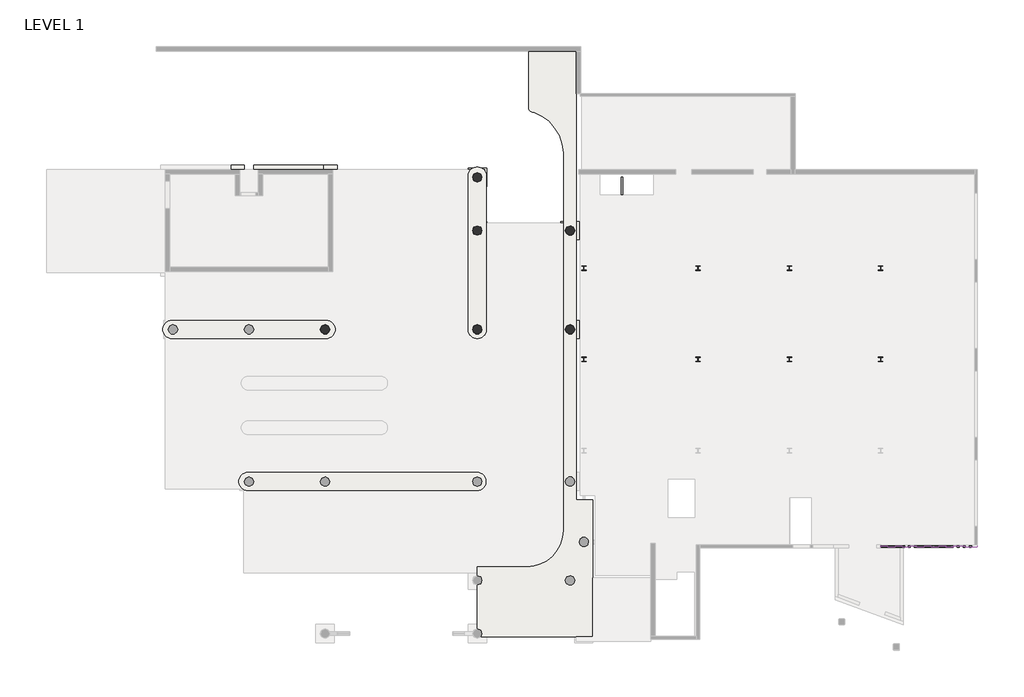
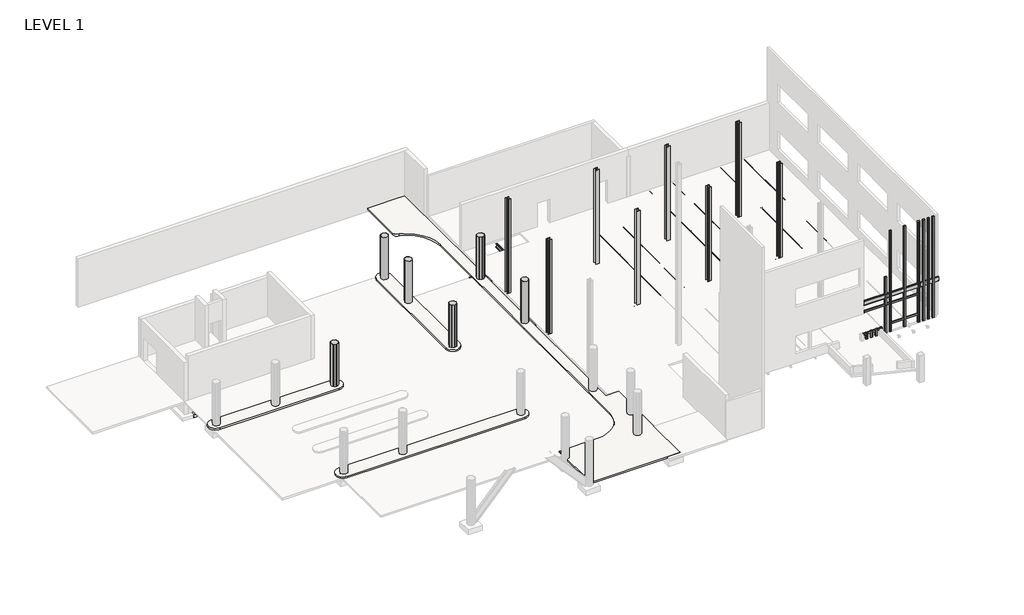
# One storey, part 3 of 3: 32 beams, 16 proxies, 14 columns, 8 slabs, 6 footings.
"""IFC4 building model written with IfcOpenShell, lengths in millimetres."""

from ifc_helpers import new_model, si_unit, point, frame, frame_2d, origin, origin_with_axes, place, context, project, spatial, polyline, circle_curve, trimmed, segment, composite_curve, outline, extrude, faceted_brep, transform, mapped, element, save
from ifc_brep_helpers import plane_surface, cylinder_surface, revolved_surface, advanced_brep
from components import w_wide_flange_w10x12_0153ac9a, w_wide_flange_w10x12_c24cad00, w_wide_flange_w12x14_6eb70244, w_wide_flange_w12x14_dde53845, w_wide_flange_w12x14_f0c11bf3, w_wide_flange_w12x14_1646f01c, w_wide_flange_w12x14_92a546e2, w_wide_flange_w12x14_a22e9f56, w_wide_flange_w12x16_3f34ee89, w_wide_flange_w12x16_acd021f3, w_wide_flange_w12x16_f1ded87a, w_wide_flange_w12x16_4f3b8e2c, w_wide_flange_w16x26_15b86ea2, w_wide_flange_w16x26_b3b18c45, w_wide_flange_w16x31_b4dcfb4a, w_wide_flange_w18x40_132b15f8, generic_models_e074341a, generic_models_4f4d1f58, generic_models_0712a437, generic_models_87b86ae9, generic_models_4b94d164, generic_models_13990884, generic_models_982b0e00, generic_models_c2dffeef, w_wide_flange_column_w12x65_f58937c4

model = new_model("IFC4")

# Units and contexts
model_context = context("Model", 3, world=origin())
ifc_project = project(units=[si_unit("LENGTHUNIT", "METRE", prefix="MILLI")], contexts=[model_context])

# Site, building, storey
site = spatial("IfcSite", under=ifc_project)
building = spatial("IfcBuilding", under=site)
storey = spatial("IfcBuildingStorey", under=building, Name="LEVEL 1", Elevation=0.0)

# Beams
placement = place(None, origin())
w_wide_flange_w10x12_shape = w_wide_flange_w10x12_0153ac9a(model_context)
element("IfcBeam", 1, ObjectType="W-Wide Flange : W10X12", at=placement, inside=storey, context=model_context, shape_type="MappedRepresentation", body=[
    mapped(w_wide_flange_w10x12_shape, transform((8608.9507265, 5057.1432042, -277.749), x_axis=(0.0, 1.0, 0.0), y_axis=(-1.0, 0.0, 0.0), z_axis=(0.0, 0.0, 1.0))),
])
w_wide_flange_w10x12_2_shape = w_wide_flange_w10x12_c24cad00(model_context)
element("IfcBeam", 2, ObjectType="W-Wide Flange : W10X12", at=placement, inside=storey, context=model_context, shape_type="MappedRepresentation", body=[
    mapped(w_wide_flange_w10x12_2_shape, transform((8608.9507265, 11143.2523818, -277.749), x_axis=(0.0, 1.0, 0.0), y_axis=(-1.0, 0.0, 0.0), z_axis=(0.0, 0.0, 1.0))),
])
w_wide_flange_w12x14_shape = w_wide_flange_w12x14_6eb70244(model_context)
element("IfcBeam", 3, ObjectType="W-Wide Flange : W12X14", at=placement, inside=storey, context=model_context, shape_type="MappedRepresentation", body=[
    mapped(w_wide_flange_w12x14_shape, transform((16228.9507265, 5057.1432042, -303.53), x_axis=(0.0, 1.0, 0.0), y_axis=(-1.0, 0.0, 0.0), z_axis=(0.0, 0.0, 1.0))),
])
element("IfcBeam", 4, ObjectType="W-Wide Flange : W12X14", at=placement, inside=storey, context=model_context, shape_type="MappedRepresentation", body=[
    mapped(w_wide_flange_w12x14_shape, transform((28420.9507265, 5057.1432042, -303.53), x_axis=(0.0, 1.0, 0.0), y_axis=(-1.0, 0.0, 0.0), z_axis=(0.0, 0.0, 1.0))),
])
w_wide_flange_w12x14_2_shape = w_wide_flange_w12x14_dde53845(model_context)
element("IfcBeam", 5, ObjectType="W-Wide Flange : W12X14", at=placement, inside=storey, context=model_context, shape_type="MappedRepresentation", body=[
    mapped(w_wide_flange_w12x14_2_shape, transform((16228.9507265, 11351.4133193, -303.53), x_axis=(0.0, 1.0, 0.0), y_axis=(-1.0, 0.0, 0.0), z_axis=(0.0, 0.0, 1.0))),
])
element("IfcBeam", 6, ObjectType="W-Wide Flange : W12X14", at=placement, inside=storey, context=model_context, shape_type="MappedRepresentation", body=[
    mapped(w_wide_flange_w12x14_2_shape, transform((28420.9507265, 11351.4133193, -303.53), x_axis=(0.0, 1.0, 0.0), y_axis=(-1.0, 0.0, 0.0), z_axis=(0.0, 0.0, 1.0))),
])
w_wide_flange_w12x14_3_shape = w_wide_flange_w12x14_f0c11bf3(model_context)
element("IfcBeam", 7, ObjectType="W-Wide Flange : W12X14", at=placement, inside=storey, context=model_context, shape_type="MappedRepresentation", body=[
    mapped(w_wide_flange_w12x14_3_shape, transform((11148.9507265, 5060.7461318, -303.53), x_axis=(0.0, 1.0, 0.0), y_axis=(-1.0, 0.0, 0.0), z_axis=(0.0, 0.0, 1.0))),
])
element("IfcBeam", 8, ObjectType="W-Wide Flange : W12X14", at=placement, inside=storey, context=model_context, shape_type="MappedRepresentation", body=[
    mapped(w_wide_flange_w12x14_3_shape, transform((13688.9507265, 5060.7461318, -303.53), x_axis=(0.0, 1.0, 0.0), y_axis=(-1.0, 0.0, 0.0), z_axis=(0.0, 0.0, 1.0))),
])
w_wide_flange_w12x14_4_shape = w_wide_flange_w12x14_1646f01c(model_context)
element("IfcBeam", 9, ObjectType="W-Wide Flange : W12X14", at=placement, inside=storey, context=model_context, shape_type="MappedRepresentation", body=[
    mapped(w_wide_flange_w12x14_4_shape, transform((11148.9507265, 11156.7461318, -303.53), x_axis=(0.0, 1.0, 0.0), y_axis=(-1.0, 0.0, 0.0), z_axis=(0.0, 0.0, 1.0))),
])
element("IfcBeam", 10, ObjectType="W-Wide Flange : W12X14", at=placement, inside=storey, context=model_context, shape_type="MappedRepresentation", body=[
    mapped(w_wide_flange_w12x14_4_shape, transform((13688.9507265, 11156.7461318, -303.53), x_axis=(0.0, 1.0, 0.0), y_axis=(-1.0, 0.0, 0.0), z_axis=(0.0, 0.0, 1.0))),
])
w_wide_flange_w12x14_5_shape = w_wide_flange_w12x14_92a546e2(model_context)
element("IfcBeam", 11, ObjectType="W-Wide Flange : W12X14", at=placement, inside=storey, context=model_context, shape_type="MappedRepresentation", body=[
    mapped(w_wide_flange_w12x14_5_shape, transform((18259.4478932, 11156.7461318, -151.13), x_axis=(0.0, 1.0, 0.0), y_axis=(-1.0, 0.0, 0.0), z_axis=(0.0, 0.0, 1.0))),
])
element("IfcBeam", 12, ObjectType="W-Wide Flange : W12X14", at=placement, inside=storey, context=model_context, shape_type="MappedRepresentation", body=[
    mapped(w_wide_flange_w12x14_5_shape, transform((20289.9450598, 11156.7461318, -151.13), x_axis=(0.0, 1.0, 0.0), y_axis=(-1.0, 0.0, 0.0), z_axis=(0.0, 0.0, 1.0))),
])
element("IfcBeam", 13, ObjectType="W-Wide Flange : W12X14", at=placement, inside=storey, context=model_context, shape_type="MappedRepresentation", body=[
    mapped(w_wide_flange_w12x14_5_shape, transform((24355.4478932, 11156.7461318, -151.13), x_axis=(0.0, 1.0, 0.0), y_axis=(-1.0, 0.0, 0.0), z_axis=(0.0, 0.0, 1.0))),
])
element("IfcBeam", 14, ObjectType="W-Wide Flange : W12X14", at=placement, inside=storey, context=model_context, shape_type="MappedRepresentation", body=[
    mapped(w_wide_flange_w12x14_5_shape, transform((26385.9450598, 11156.7461318, -151.13), x_axis=(0.0, 1.0, 0.0), y_axis=(-1.0, 0.0, 0.0), z_axis=(0.0, 0.0, 1.0))),
])
w_wide_flange_w12x14_6_shape = w_wide_flange_w12x14_a22e9f56(model_context)
element("IfcBeam", 15, ObjectType="W-Wide Flange : W12X14", at=placement, inside=storey, context=model_context, shape_type="MappedRepresentation", body=[
    mapped(w_wide_flange_w12x14_6_shape, transform((30451.4478932, 11156.7461318, -151.13), x_axis=(0.0, 1.0, 0.0), y_axis=(-1.0, 0.0, 0.0), z_axis=(0.0, 0.0, 1.0))),
])
element("IfcBeam", 16, ObjectType="W-Wide Flange : W12X14", at=placement, inside=storey, context=model_context, shape_type="MappedRepresentation", body=[
    mapped(w_wide_flange_w12x14_6_shape, transform((32481.9450598, 11156.7461318, -151.13), x_axis=(0.0, 1.0, 0.0), y_axis=(-1.0, 0.0, 0.0), z_axis=(0.0, 0.0, 1.0))),
])
w_wide_flange_w12x16_shape = w_wide_flange_w12x16_3f34ee89(model_context)
element("IfcBeam", 17, ObjectType="W-Wide Flange : W12X16", at=placement, inside=storey, context=model_context, shape_type="MappedRepresentation", body=[
    mapped(w_wide_flange_w12x16_shape, transform((22324.9507265, 5057.1432042, -304.8), x_axis=(0.0, 1.0, 0.0), y_axis=(-1.0, 0.0, 0.0), z_axis=(0.0, 0.0, 1.0))),
])
w_wide_flange_w12x16_2_shape = w_wide_flange_w12x16_acd021f3(model_context)
element("IfcBeam", 18, ObjectType="W-Wide Flange : W12X16", at=placement, inside=storey, context=model_context, shape_type="MappedRepresentation", body=[
    mapped(w_wide_flange_w12x16_2_shape, transform((22324.9507265, 11351.4133193, -304.8), x_axis=(0.0, 1.0, 0.0), y_axis=(-1.0, 0.0, 0.0), z_axis=(0.0, 0.0, 1.0))),
])
w_wide_flange_w12x16_3_shape = w_wide_flange_w12x16_f1ded87a(model_context)
element("IfcBeam", 19, ObjectType="W-Wide Flange : W12X16", at=placement, inside=storey, context=model_context, shape_type="MappedRepresentation", body=[
    mapped(w_wide_flange_w12x16_3_shape, transform((18259.4478932, 5060.7461318, -152.4), x_axis=(0.0, 1.0, 0.0), y_axis=(-1.0, 0.0, 0.0), z_axis=(0.0, 0.0, 1.0))),
])
element("IfcBeam", 20, ObjectType="W-Wide Flange : W12X16", at=placement, inside=storey, context=model_context, shape_type="MappedRepresentation", body=[
    mapped(w_wide_flange_w12x16_3_shape, transform((20289.9450598, 5060.7461318, -152.4), x_axis=(0.0, 1.0, 0.0), y_axis=(-1.0, 0.0, 0.0), z_axis=(0.0, 0.0, 1.0))),
])
element("IfcBeam", 21, ObjectType="W-Wide Flange : W12X16", at=placement, inside=storey, context=model_context, shape_type="MappedRepresentation", body=[
    mapped(w_wide_flange_w12x16_3_shape, transform((24355.4478932, 5060.7461318, -152.4), x_axis=(0.0, 1.0, 0.0), y_axis=(-1.0, 0.0, 0.0), z_axis=(0.0, 0.0, 1.0))),
])
element("IfcBeam", 22, ObjectType="W-Wide Flange : W12X16", at=placement, inside=storey, context=model_context, shape_type="MappedRepresentation", body=[
    mapped(w_wide_flange_w12x16_3_shape, transform((26385.9450598, 5060.7461318, -152.4), x_axis=(0.0, 1.0, 0.0), y_axis=(-1.0, 0.0, 0.0), z_axis=(0.0, 0.0, 1.0))),
])
w_wide_flange_w12x16_4_shape = w_wide_flange_w12x16_4f3b8e2c(model_context)
element("IfcBeam", 23, ObjectType="W-Wide Flange : W12X16", at=placement, inside=storey, context=model_context, shape_type="MappedRepresentation", body=[
    mapped(w_wide_flange_w12x16_4_shape, transform((30451.4478932, 5060.7461318, -152.4), x_axis=(0.0, 1.0, 0.0), y_axis=(-1.0, 0.0, 0.0), z_axis=(0.0, 0.0, 1.0))),
])
element("IfcBeam", 24, ObjectType="W-Wide Flange : W12X16", at=placement, inside=storey, context=model_context, shape_type="MappedRepresentation", body=[
    mapped(w_wide_flange_w12x16_4_shape, transform((32481.9450598, 5060.7461318, -152.4), x_axis=(0.0, 1.0, 0.0), y_axis=(-1.0, 0.0, 0.0), z_axis=(0.0, 0.0, 1.0))),
])
w_wide_flange_w16x26_shape = w_wide_flange_w16x26_15b86ea2(model_context)
element("IfcBeam", 25, ObjectType="W-Wide Flange : W16X26", at=placement, inside=storey, context=model_context, shape_type="MappedRepresentation", body=[
    mapped(w_wide_flange_w16x26_shape, transform((19277.1543613, 8108.7461318, -351.79), x_axis=(-1.0, 0.0, 0.0), y_axis=(0.0, -1.0, 0.0), z_axis=(0.0, 0.0, 1.0))),
])
element("IfcBeam", 26, ObjectType="W-Wide Flange : W16X26", at=placement, inside=storey, context=model_context, shape_type="MappedRepresentation", body=[
    mapped(w_wide_flange_w16x26_shape, transform((19277.1543613, 2012.7461318, -351.79), x_axis=(-1.0, 0.0, 0.0), y_axis=(0.0, -1.0, 0.0), z_axis=(0.0, 0.0, 1.0))),
])
w_wide_flange_w16x26_2_shape = w_wide_flange_w16x26_b3b18c45(model_context)
element("IfcBeam", 27, ObjectType="W-Wide Flange : W16X26", at=placement, inside=storey, context=model_context, shape_type="MappedRepresentation", body=[
    mapped(w_wide_flange_w16x26_2_shape, transform((25372.7470917, 8108.7461318, -351.79), x_axis=(1.0, 0.0, 0.0), y_axis=(0.0, 1.0, 0.0), z_axis=(0.0, 0.0, 1.0))),
])
element("IfcBeam", 28, ObjectType="W-Wide Flange : W16X26", at=placement, inside=storey, context=model_context, shape_type="MappedRepresentation", body=[
    mapped(w_wide_flange_w16x26_2_shape, transform((25372.7470917, 2012.7461318, -351.79), x_axis=(1.0, 0.0, 0.0), y_axis=(0.0, 1.0, 0.0), z_axis=(0.0, 0.0, 1.0))),
])
w_wide_flange_w16x31_shape = w_wide_flange_w16x31_b4dcfb4a(model_context)
element("IfcBeam", 29, ObjectType="W-Wide Flange : W16X31", at=placement, inside=storey, context=model_context, shape_type="MappedRepresentation", body=[
    mapped(w_wide_flange_w16x31_shape, transform((31619.8650439, 8108.7461318, -354.33), x_axis=(-1.0, 0.0, 0.0), y_axis=(0.0, -1.0, 0.0), z_axis=(0.0, 0.0, 1.0))),
])
element("IfcBeam", 30, ObjectType="W-Wide Flange : W16X31", at=placement, inside=storey, context=model_context, shape_type="MappedRepresentation", body=[
    mapped(w_wide_flange_w16x31_shape, transform((31619.8650439, 2012.7461318, -354.33), x_axis=(-1.0, 0.0, 0.0), y_axis=(0.0, -1.0, 0.0), z_axis=(0.0, 0.0, 1.0))),
])
w_wide_flange_w18x40_shape = w_wide_flange_w18x40_132b15f8(model_context)
element("IfcBeam", 31, ObjectType="W-Wide Flange : W18X40", at=placement, inside=storey, context=model_context, shape_type="MappedRepresentation", body=[
    mapped(w_wide_flange_w18x40_shape, transform((12418.7470917, 8108.7461318, -379.73), x_axis=(1.0, 0.0, 0.0), y_axis=(0.0, 1.0, 0.0), z_axis=(0.0, 0.0, 1.0))),
])
element("IfcBeam", 32, ObjectType="W-Wide Flange : W18X40", at=placement, inside=storey, context=model_context, shape_type="MappedRepresentation", body=[
    mapped(w_wide_flange_w18x40_shape, transform((12418.7470917, 2012.7461318, -379.73), x_axis=(1.0, 0.0, 0.0), y_axis=(0.0, 1.0, 0.0), z_axis=(0.0, 0.0, 1.0))),
])

# Proxies
generic_models_shape = generic_models_e074341a(model_context)
element("IfcBuildingElementProxy", 33, Name="GROUTED CMU CELLS : GROUTED CMU CELLS", ObjectType="GROUTED CMU CELLS : GROUTED CMU CELLS", at=placement, inside=storey, context=model_context, shape_type="MappedRepresentation", body=[
    mapped(generic_models_shape, transform((28709.8757265, -10477.7038682, 0.0), x_axis=(1.0, 0.0, 0.0), y_axis=(0.0, 1.0, 0.0), z_axis=(0.0, 0.0, 1.0))),
])
element("IfcBuildingElementProxy", 34, Name="GROUTED CMU CELLS : GROUTED CMU CELLS", ObjectType="GROUTED CMU CELLS : GROUTED CMU CELLS", at=placement, inside=storey, context=model_context, shape_type="MappedRepresentation", body=[
    mapped(generic_models_shape, transform((29116.2757265, -10477.7038682, 0.0), x_axis=(1.0, 0.0, 0.0), y_axis=(0.0, 1.0, 0.0), z_axis=(0.0, 0.0, 1.0))),
])
element("IfcBuildingElementProxy", 35, Name="GROUTED CMU CELLS : GROUTED CMU CELLS", ObjectType="GROUTED CMU CELLS : GROUTED CMU CELLS", at=placement, inside=storey, context=model_context, shape_type="MappedRepresentation", body=[
    mapped(generic_models_shape, transform((29929.0757265, -10477.7038682, 0.0), x_axis=(1.0, 0.0, 0.0), y_axis=(0.0, 1.0, 0.0), z_axis=(0.0, 0.0, 1.0))),
])
element("IfcBuildingElementProxy", 36, Name="GROUTED CMU CELLS : GROUTED CMU CELLS", ObjectType="GROUTED CMU CELLS : GROUTED CMU CELLS", at=placement, inside=storey, context=model_context, shape_type="MappedRepresentation", body=[
    mapped(generic_models_shape, transform((29522.6757265, -10477.7038682, 0.0), x_axis=(1.0, 0.0, 0.0), y_axis=(0.0, 1.0, 0.0), z_axis=(0.0, 0.0, 1.0))),
])
generic_models_2_shape = generic_models_4f4d1f58(model_context)
element("IfcBuildingElementProxy", 37, Name="GROUTED CMU CELLS : GROUTED CMU CELLS", ObjectType="GROUTED CMU CELLS : GROUTED CMU CELLS", at=placement, inside=storey, context=model_context, shape_type="MappedRepresentation", body=[
    mapped(generic_models_2_shape, transform((30335.4757265, -10477.7038682, 0.0), x_axis=(1.0, 0.0, 0.0), y_axis=(0.0, 1.0, 0.0), z_axis=(0.0, 0.0, 1.0))),
])
generic_models_3_shape = generic_models_0712a437(model_context)
element("IfcBuildingElementProxy", 38, Name="GROUTED CMU CELLS_horizontal : GROUTED CMU CELLS_horizontal", ObjectType="GROUTED CMU CELLS_horizontal : GROUTED CMU CELLS_horizontal", at=placement, inside=storey, context=model_context, shape_type="MappedRepresentation", body=[
    mapped(generic_models_3_shape, transform((33259.6507265, -10477.7038682, 730.25), x_axis=(-1.0, 0.0, 0.0), y_axis=(0.0, -1.0, 0.0), z_axis=(0.0, 0.0, 1.0))),
])
generic_models_4_shape = generic_models_87b86ae9(model_context)
element("IfcBuildingElementProxy", 39, Name="GROUTED CMU CELLS_horizontal : GROUTED CMU CELLS_horizontal", ObjectType="GROUTED CMU CELLS_horizontal : GROUTED CMU CELLS_horizontal", at=placement, inside=storey, context=model_context, shape_type="MappedRepresentation", body=[
    mapped(generic_models_4_shape, transform((30036.8220917, -10477.7038682, 527.05), x_axis=(-1.0, 0.0, 0.0), y_axis=(0.0, -1.0, 0.0), z_axis=(0.0, 0.0, 1.0))),
])
generic_models_5_shape = generic_models_4b94d164(model_context)
element("IfcBuildingElementProxy", 40, Name="GROUTED CMU CELLS_horizontal : GROUTED CMU CELLS_horizontal", ObjectType="GROUTED CMU CELLS_horizontal : GROUTED CMU CELLS_horizontal", at=placement, inside=storey, context=model_context, shape_type="MappedRepresentation", body=[
    mapped(generic_models_5_shape, transform((33259.6507265, -10477.7038682, 2559.05), x_axis=(-1.0, 0.0, 0.0), y_axis=(0.0, -1.0, 0.0), z_axis=(0.0, 0.0, 1.0))),
])
generic_models_6_shape = generic_models_13990884(model_context)
element("IfcBuildingElementProxy", 41, Name="GROUTED CMU CELLS_horizontal : GROUTED CMU CELLS_horizontal", ObjectType="GROUTED CMU CELLS_horizontal : GROUTED CMU CELLS_horizontal", at=placement, inside=storey, context=model_context, shape_type="MappedRepresentation", body=[
    mapped(generic_models_6_shape, transform((33272.3507265, -10477.7038682, 3340.1), x_axis=(-1.0, 0.0, 0.0), y_axis=(0.0, -1.0, 0.0), z_axis=(0.0, 0.0, 1.0))),
])
generic_models_7_shape = generic_models_982b0e00(model_context)
element("IfcBuildingElementProxy", 42, Name="GROUTED CMU CELLS_horizontal : GROUTED CMU CELLS_horizontal", ObjectType="GROUTED CMU CELLS_horizontal : GROUTED CMU CELLS_horizontal", at=placement, inside=storey, context=model_context, shape_type="MappedRepresentation", body=[
    mapped(generic_models_7_shape, transform((34864.8168613, -10477.7038682, 3340.1), x_axis=(-1.0, 0.0, 0.0), y_axis=(0.0, -1.0, 0.0), z_axis=(0.0, 0.0, 1.0))),
])
generic_models_8_shape = generic_models_c2dffeef(model_context)
element("IfcBuildingElementProxy", 43, Name="GROUTED CMU CELLS : GROUTED CMU CELLS", ObjectType="GROUTED CMU CELLS : GROUTED CMU CELLS", at=placement, inside=storey, context=model_context, shape_type="MappedRepresentation", body=[
    mapped(generic_models_8_shape, transform((30741.8757265, -10477.7038682, 0.0), x_axis=(1.0, 0.0, 0.0), y_axis=(0.0, 1.0, 0.0), z_axis=(0.0, 0.0, 1.0))),
])
element("IfcBuildingElementProxy", 44, Name="GROUTED CMU CELLS : GROUTED CMU CELLS", ObjectType="GROUTED CMU CELLS : GROUTED CMU CELLS", at=placement, inside=storey, context=model_context, shape_type="MappedRepresentation", body=[
    mapped(generic_models_8_shape, transform((31961.0757265, -10477.7038682, 0.0), x_axis=(1.0, 0.0, 0.0), y_axis=(0.0, 1.0, 0.0), z_axis=(0.0, 0.0, 1.0))),
])
element("IfcBuildingElementProxy", 45, Name="GROUTED CMU CELLS : GROUTED CMU CELLS", ObjectType="GROUTED CMU CELLS : GROUTED CMU CELLS", at=placement, inside=storey, context=model_context, shape_type="MappedRepresentation", body=[
    mapped(generic_models_8_shape, transform((33180.2757265, -10477.7038682, 0.0), x_axis=(1.0, 0.0, 0.0), y_axis=(0.0, 1.0, 0.0), z_axis=(0.0, 0.0, 1.0))),
])
element("IfcBuildingElementProxy", 46, Name="GROUTED CMU CELLS : GROUTED CMU CELLS", ObjectType="GROUTED CMU CELLS : GROUTED CMU CELLS", at=placement, inside=storey, context=model_context, shape_type="MappedRepresentation", body=[
    mapped(generic_models_8_shape, transform((33596.2007265, -10477.7038682, 0.0), x_axis=(1.0, 0.0, 0.0), y_axis=(0.0, 1.0, 0.0), z_axis=(0.0, 0.0, 1.0))),
])
element("IfcBuildingElementProxy", 47, Name="GROUTED CMU CELLS : GROUTED CMU CELLS", ObjectType="GROUTED CMU CELLS : GROUTED CMU CELLS", at=placement, inside=storey, context=model_context, shape_type="MappedRepresentation", body=[
    mapped(generic_models_8_shape, transform((34002.6007265, -10477.7038682, 0.0), x_axis=(1.0, 0.0, 0.0), y_axis=(0.0, 1.0, 0.0), z_axis=(0.0, 0.0, 1.0))),
])
element("IfcBuildingElementProxy", 48, Name="GROUTED CMU CELLS : GROUTED CMU CELLS", ObjectType="GROUTED CMU CELLS : GROUTED CMU CELLS", at=placement, inside=storey, context=model_context, shape_type="MappedRepresentation", body=[
    mapped(generic_models_8_shape, transform((34409.0007265, -10477.7038682, 0.0), x_axis=(1.0, 0.0, 0.0), y_axis=(0.0, 1.0, 0.0), z_axis=(0.0, 0.0, 1.0))),
])

# Columns
element("IfcColumn", 49, ObjectType="Concrete-Round-Column : 24\"", at=placement, inside=storey, context=model_context, shape_type="SweptSolid", body=[
    extrude(outline(composite_curve([segment(trimmed(circle_curve(frame_2d((-8663.0492735, 4017.7586318)), 304.8), [point((-8967.8492735, 4017.7586318))], [point((-8358.2492735, 4017.7586318))], False, "CARTESIAN"), True, "CONTINUOUS"), segment(trimmed(circle_curve(frame_2d((-8663.0492735, 4017.7586318)), 304.8), [point((-8358.2492735, 4017.7586318))], [point((-8967.8492735, 4017.7586318))], False, "CARTESIAN"), True, "CONTINUOUS")], self_intersect=False)), frame((0.0, 0.0, -152.4), z_axis=(0.0, 0.0, 1.0), x_axis=(1.0, 0.0, 0.0)), (0.0, 0.0, 1.0), 4140.2),
    extrude(outline(composite_curve([segment(trimmed(circle_curve(frame_2d((-8663.0492735, 4017.7586318)), 311.15), [point((-8974.1992735, 4017.7586318))], [point((-8351.8992735, 4017.7586318))], False, "CARTESIAN"), True, "CONTINUOUS"), segment(trimmed(circle_curve(frame_2d((-8663.0492735, 4017.7586318)), 311.15), [point((-8351.8992735, 4017.7586318))], [point((-8974.1992735, 4017.7586318))], False, "CARTESIAN"), True, "CONTINUOUS")], self_intersect=False), holes=[composite_curve([segment(trimmed(circle_curve(frame_2d((-8663.0492735, 4017.7586318)), 304.8), [point((-8967.8492735, 4017.7586318))], [point((-8358.2492735, 4017.7586318))], True, "CARTESIAN"), True, "CONTINUOUS"), segment(trimmed(circle_curve(frame_2d((-8663.0492735, 4017.7586318)), 304.8), [point((-8358.2492735, 4017.7586318))], [point((-8967.8492735, 4017.7586318))], True, "CARTESIAN"), True, "CONTINUOUS")], self_intersect=False)]), frame((0.0, 0.0, -152.4), z_axis=(0.0, 0.0, 1.0), x_axis=(1.0, 0.0, 0.0)), (0.0, 0.0, 1.0), 4140.2),
])
element("IfcColumn", 50, ObjectType="Concrete-Round-Column : 24\"", at=placement, inside=storey, context=model_context, shape_type="SweptSolid", body=[
    extrude(outline(composite_curve([segment(trimmed(circle_curve(frame_2d((7694.5507265, 4017.7586318)), 304.8), [point((7389.7507265, 4017.7586318))], [point((7999.3507265, 4017.7586318))], False, "CARTESIAN"), True, "CONTINUOUS"), segment(trimmed(circle_curve(frame_2d((7694.5507265, 4017.7586318)), 304.8), [point((7999.3507265, 4017.7586318))], [point((7389.7507265, 4017.7586318))], False, "CARTESIAN"), True, "CONTINUOUS")], self_intersect=False)), origin_with_axes(), (0.0, 0.0, 1.0), 3987.8),
    extrude(outline(composite_curve([segment(trimmed(circle_curve(frame_2d((7694.5507265, 4017.7586318)), 311.15), [point((7383.4007265, 4017.7586318))], [point((8005.7007265, 4017.7586318))], False, "CARTESIAN"), True, "CONTINUOUS"), segment(trimmed(circle_curve(frame_2d((7694.5507265, 4017.7586318)), 311.15), [point((8005.7007265, 4017.7586318))], [point((7383.4007265, 4017.7586318))], False, "CARTESIAN"), True, "CONTINUOUS")], self_intersect=False), holes=[composite_curve([segment(trimmed(circle_curve(frame_2d((7694.5507265, 4017.7586318)), 304.8), [point((7389.7507265, 4017.7586318))], [point((7999.3507265, 4017.7586318))], True, "CARTESIAN"), True, "CONTINUOUS"), segment(trimmed(circle_curve(frame_2d((7694.5507265, 4017.7586318)), 304.8), [point((7999.3507265, 4017.7586318))], [point((7389.7507265, 4017.7586318))], True, "CARTESIAN"), True, "CONTINUOUS")], self_intersect=False)]), origin_with_axes(), (0.0, 0.0, 1.0), 3987.8),
])
element("IfcColumn", 51, ObjectType="Concrete-Round-Column : 24\"", at=placement, inside=storey, context=model_context, shape_type="SweptSolid", body=[
    extrude(outline(composite_curve([segment(trimmed(circle_curve(frame_2d((1496.9507265, 4017.7586318)), 304.8), [point((1192.1507265, 4017.7586318))], [point((1801.7507265, 4017.7586318))], False, "CARTESIAN"), True, "CONTINUOUS"), segment(trimmed(circle_curve(frame_2d((1496.9507265, 4017.7586318)), 304.8), [point((1801.7507265, 4017.7586318))], [point((1192.1507265, 4017.7586318))], False, "CARTESIAN"), True, "CONTINUOUS")], self_intersect=False)), frame((0.0, 0.0, -152.4), z_axis=(0.0, 0.0, 1.0), x_axis=(1.0, 0.0, 0.0)), (0.0, 0.0, 1.0), 4140.2),
    extrude(outline(composite_curve([segment(trimmed(circle_curve(frame_2d((1496.9507265, 4017.7586318)), 311.15), [point((1185.8007265, 4017.7586318))], [point((1808.1007265, 4017.7586318))], False, "CARTESIAN"), True, "CONTINUOUS"), segment(trimmed(circle_curve(frame_2d((1496.9507265, 4017.7586318)), 311.15), [point((1808.1007265, 4017.7586318))], [point((1185.8007265, 4017.7586318))], False, "CARTESIAN"), True, "CONTINUOUS")], self_intersect=False), holes=[composite_curve([segment(trimmed(circle_curve(frame_2d((1496.9507265, 4017.7586318)), 304.8), [point((1192.1507265, 4017.7586318))], [point((1801.7507265, 4017.7586318))], True, "CARTESIAN"), True, "CONTINUOUS"), segment(trimmed(circle_curve(frame_2d((1496.9507265, 4017.7586318)), 304.8), [point((1801.7507265, 4017.7586318))], [point((1192.1507265, 4017.7586318))], True, "CARTESIAN"), True, "CONTINUOUS")], self_intersect=False)]), frame((0.0, 0.0, -152.4), z_axis=(0.0, 0.0, 1.0), x_axis=(1.0, 0.0, 0.0)), (0.0, 0.0, 1.0), 4140.2),
])
element("IfcColumn", 52, ObjectType="Concrete-Round-Column : 24\"", at=placement, inside=storey, context=model_context, shape_type="SweptSolid", body=[
    extrude(outline(composite_curve([segment(trimmed(circle_curve(frame_2d((7694.5507265, 10621.7586318)), 304.8), [point((7389.7507265, 10621.7586318))], [point((7999.3507265, 10621.7586318))], False, "CARTESIAN"), True, "CONTINUOUS"), segment(trimmed(circle_curve(frame_2d((7694.5507265, 10621.7586318)), 304.8), [point((7999.3507265, 10621.7586318))], [point((7389.7507265, 10621.7586318))], False, "CARTESIAN"), True, "CONTINUOUS")], self_intersect=False)), origin_with_axes(), (0.0, 0.0, 1.0), 3987.8),
    extrude(outline(composite_curve([segment(trimmed(circle_curve(frame_2d((7694.5507265, 10621.7586318)), 311.15), [point((7383.4007265, 10621.7586318))], [point((8005.7007265, 10621.7586318))], False, "CARTESIAN"), True, "CONTINUOUS"), segment(trimmed(circle_curve(frame_2d((7694.5507265, 10621.7586318)), 311.15), [point((8005.7007265, 10621.7586318))], [point((7383.4007265, 10621.7586318))], False, "CARTESIAN"), True, "CONTINUOUS")], self_intersect=False), holes=[composite_curve([segment(trimmed(circle_curve(frame_2d((7694.5507265, 10621.7586318)), 304.8), [point((7389.7507265, 10621.7586318))], [point((7999.3507265, 10621.7586318))], True, "CARTESIAN"), True, "CONTINUOUS"), segment(trimmed(circle_curve(frame_2d((7694.5507265, 10621.7586318)), 304.8), [point((7999.3507265, 10621.7586318))], [point((7389.7507265, 10621.7586318))], True, "CARTESIAN"), True, "CONTINUOUS")], self_intersect=False)]), origin_with_axes(), (0.0, 0.0, 1.0), 3987.8),
])
element("IfcColumn", 53, ObjectType="Concrete-Round-Column : 24\"", at=placement, inside=storey, context=model_context, shape_type="SweptSolid", body=[
    extrude(outline(composite_curve([segment(trimmed(circle_curve(frame_2d((1496.9507265, 10621.7586318)), 304.8), [point((1192.1507265, 10621.7586318))], [point((1801.7507265, 10621.7586318))], False, "CARTESIAN"), True, "CONTINUOUS"), segment(trimmed(circle_curve(frame_2d((1496.9507265, 10621.7586318)), 304.8), [point((1801.7507265, 10621.7586318))], [point((1192.1507265, 10621.7586318))], False, "CARTESIAN"), True, "CONTINUOUS")], self_intersect=False)), frame((0.0, 0.0, -152.4), z_axis=(0.0, 0.0, 1.0), x_axis=(1.0, 0.0, 0.0)), (0.0, 0.0, 1.0), 4140.2),
    extrude(outline(composite_curve([segment(trimmed(circle_curve(frame_2d((1496.9507265, 10621.7586318)), 311.15), [point((1185.8007265, 10621.7586318))], [point((1808.1007265, 10621.7586318))], False, "CARTESIAN"), True, "CONTINUOUS"), segment(trimmed(circle_curve(frame_2d((1496.9507265, 10621.7586318)), 311.15), [point((1808.1007265, 10621.7586318))], [point((1185.8007265, 10621.7586318))], False, "CARTESIAN"), True, "CONTINUOUS")], self_intersect=False), holes=[composite_curve([segment(trimmed(circle_curve(frame_2d((1496.9507265, 10621.7586318)), 304.8), [point((1192.1507265, 10621.7586318))], [point((1801.7507265, 10621.7586318))], True, "CARTESIAN"), True, "CONTINUOUS"), segment(trimmed(circle_curve(frame_2d((1496.9507265, 10621.7586318)), 304.8), [point((1801.7507265, 10621.7586318))], [point((1192.1507265, 10621.7586318))], True, "CARTESIAN"), True, "CONTINUOUS")], self_intersect=False)]), frame((0.0, 0.0, -152.4), z_axis=(0.0, 0.0, 1.0), x_axis=(1.0, 0.0, 0.0)), (0.0, 0.0, 1.0), 4140.2),
])
element("IfcColumn", 54, ObjectType="Concrete-Round-Column : 24\"", at=placement, inside=storey, context=model_context, shape_type="SweptSolid", body=[
    extrude(outline(composite_curve([segment(trimmed(circle_curve(frame_2d((1496.9507265, 14177.7586318)), 304.8), [point((1192.1507265, 14177.7586318))], [point((1801.7507265, 14177.7586318))], False, "CARTESIAN"), True, "CONTINUOUS"), segment(trimmed(circle_curve(frame_2d((1496.9507265, 14177.7586318)), 304.8), [point((1801.7507265, 14177.7586318))], [point((1192.1507265, 14177.7586318))], False, "CARTESIAN"), True, "CONTINUOUS")], self_intersect=False)), frame((0.0, 0.0, -152.4), z_axis=(0.0, 0.0, 1.0), x_axis=(1.0, 0.0, 0.0)), (0.0, 0.0, 1.0), 4140.2),
    extrude(outline(composite_curve([segment(trimmed(circle_curve(frame_2d((1496.9507265, 14177.7586318)), 311.15), [point((1185.8007265, 14177.7586318))], [point((1808.1007265, 14177.7586318))], False, "CARTESIAN"), True, "CONTINUOUS"), segment(trimmed(circle_curve(frame_2d((1496.9507265, 14177.7586318)), 311.15), [point((1808.1007265, 14177.7586318))], [point((1185.8007265, 14177.7586318))], False, "CARTESIAN"), True, "CONTINUOUS")], self_intersect=False), holes=[composite_curve([segment(trimmed(circle_curve(frame_2d((1496.9507265, 14177.7586318)), 304.8), [point((1192.1507265, 14177.7586318))], [point((1801.7507265, 14177.7586318))], True, "CARTESIAN"), True, "CONTINUOUS"), segment(trimmed(circle_curve(frame_2d((1496.9507265, 14177.7586318)), 304.8), [point((1801.7507265, 14177.7586318))], [point((1192.1507265, 14177.7586318))], True, "CARTESIAN"), True, "CONTINUOUS")], self_intersect=False)]), frame((0.0, 0.0, -152.4), z_axis=(0.0, 0.0, 1.0), x_axis=(1.0, 0.0, 0.0)), (0.0, 0.0, 1.0), 4140.2),
])
w_wide_flange_column_w12x65_shape = w_wide_flange_column_w12x65_f58937c4(model_context)
element("IfcColumn", 55, ObjectType="W-Wide Flange-Column : W12X65", at=placement, inside=storey, context=model_context, shape_type="MappedRepresentation", body=[
    mapped(w_wide_flange_column_w12x65_shape, transform((8608.9507265, 2012.7461318, 0.0), x_axis=(1.0, 0.0, 0.0), y_axis=(0.0, 1.0, 0.0), z_axis=(0.0, 0.0, 1.0))),
])
element("IfcColumn", 56, ObjectType="W-Wide Flange-Column : W12X65", at=placement, inside=storey, context=model_context, shape_type="MappedRepresentation", body=[
    mapped(w_wide_flange_column_w12x65_shape, transform((8608.9507265, 8108.7461318, 0.0), x_axis=(1.0, 0.0, 0.0), y_axis=(0.0, 1.0, 0.0), z_axis=(0.0, 0.0, 1.0))),
])
element("IfcColumn", 57, ObjectType="W-Wide Flange-Column : W12X65", at=placement, inside=storey, context=model_context, shape_type="MappedRepresentation", body=[
    mapped(w_wide_flange_column_w12x65_shape, transform((16228.9507265, 8108.7461318, 0.0), x_axis=(1.0, 0.0, 0.0), y_axis=(0.0, 1.0, 0.0), z_axis=(0.0, 0.0, 1.0))),
])
element("IfcColumn", 58, ObjectType="W-Wide Flange-Column : W12X65", at=placement, inside=storey, context=model_context, shape_type="MappedRepresentation", body=[
    mapped(w_wide_flange_column_w12x65_shape, transform((22324.9507265, 8108.7461318, 0.0), x_axis=(1.0, 0.0, 0.0), y_axis=(0.0, 1.0, 0.0), z_axis=(0.0, 0.0, 1.0))),
])
element("IfcColumn", 59, ObjectType="W-Wide Flange-Column : W12X65", at=placement, inside=storey, context=model_context, shape_type="MappedRepresentation", body=[
    mapped(w_wide_flange_column_w12x65_shape, transform((28420.9507265, 8108.7461318, 0.0), x_axis=(1.0, 0.0, 0.0), y_axis=(0.0, 1.0, 0.0), z_axis=(0.0, 0.0, 1.0))),
])
element("IfcColumn", 60, ObjectType="W-Wide Flange-Column : W12X65", at=placement, inside=storey, context=model_context, shape_type="MappedRepresentation", body=[
    mapped(w_wide_flange_column_w12x65_shape, transform((16228.9507265, 2012.7461318, 0.0), x_axis=(1.0, 0.0, 0.0), y_axis=(0.0, 1.0, 0.0), z_axis=(0.0, 0.0, 1.0))),
])
element("IfcColumn", 61, ObjectType="W-Wide Flange-Column : W12X65", at=placement, inside=storey, context=model_context, shape_type="MappedRepresentation", body=[
    mapped(w_wide_flange_column_w12x65_shape, transform((22324.9507265, 2012.7461318, 0.0), x_axis=(1.0, 0.0, 0.0), y_axis=(0.0, 1.0, 0.0), z_axis=(0.0, 0.0, 1.0))),
])
element("IfcColumn", 62, ObjectType="W-Wide Flange-Column : W12X65", at=placement, inside=storey, context=model_context, shape_type="MappedRepresentation", body=[
    mapped(w_wide_flange_column_w12x65_shape, transform((28420.9507265, 2012.7461318, 0.0), x_axis=(1.0, 0.0, 0.0), y_axis=(0.0, 1.0, 0.0), z_axis=(0.0, 0.0, 1.0))),
])

# Footings
element("IfcFooting", 63, ObjectType="Bearing Footing - 36\" x 12\"", at=placement, inside=storey, context=model_context, shape_type="Brep", body=[
    faceted_brep([(-8764.8529083, 14990.5586318, -1219.2), (-8764.8529083, 14076.1586318, -1219.2), (-8764.8529083, 8488.1586318, -1219.2), (-8764.8529083, 7573.7586318, -1219.2), (-7850.4529083, 7573.7586318, -1219.2), (-7850.4529083, 14990.5586318, -1219.2), (-7850.4529083, 14990.5586318, -1524.0), (-7850.4529083, 7573.7586318, -1524.0), (-8764.8529083, 14990.5586318, -1524.0), (-8764.8529083, 7573.7586318, -1524.0), (-8764.8529083, 8488.1586318, -1524.0), (-8764.8529083, 14076.1586318, -1524.0)], [[[0, 1, 2, 3, 4, 5]], [[6, 5, 4, 7]], [[8, 6, 7, 9, 10, 11]], [[0, 8, 11, 10, 9, 3, 2, 1]], [[0, 5, 6, 8]], [[4, 3, 9, 7]]]),
])
element("IfcFooting", 64, ObjectType="Bearing Footing - 36\" x 12\"", at=placement, inside=storey, context=model_context, shape_type="Brep", body=[
    faceted_brep([(-13438.4529083, 14990.5586318, -1219.2), (-13438.4529083, 14076.1586318, -1219.2), (-12524.0529083, 14076.1586318, -1219.2), (-8764.8529083, 14076.1586318, -1219.2), (-8764.8529083, 14990.5586318, -1219.2), (-13438.4529083, 14076.1586318, -1524.0), (-12524.0529083, 14076.1586318, -1524.0), (-8764.8529083, 14076.1586318, -1524.0), (-13438.4529083, 14990.5586318, -1524.0), (-8764.8529083, 14990.5586318, -1524.0)], [[[0, 1, 2, 3, 4]], [[1, 5, 6, 7, 3, 2]], [[5, 8, 9, 7, 6]], [[8, 0, 4, 9]], [[1, 0, 8, 5]], [[4, 3, 7, 9]]]),
])
element("IfcFooting", 65, ObjectType="Bearing Footing - 36\" x 12\"", at=placement, inside=storey, context=model_context, shape_type="Brep", body=[
    faceted_brep([(-13438.4529083, 12598.7059044, -1219.2), (-12524.0529083, 12598.7059044, -1219.2), (-12524.0529083, 14076.1586318, -1219.2), (-13438.4529083, 14076.1586318, -1219.2), (-13438.4529083, 13513.1059044, -1219.2), (-12524.0529083, 12598.7059044, -1524.0), (-12524.0529083, 14076.1586318, -1524.0), (-13438.4529083, 12598.7059044, -1524.0), (-13438.4529083, 13513.1059044, -1524.0), (-13438.4529083, 14076.1586318, -1524.0)], [[[0, 1, 2, 3, 4]], [[1, 5, 6, 2]], [[5, 7, 8, 9, 6]], [[7, 0, 4, 3, 9, 8]], [[1, 0, 7, 5]], [[3, 2, 6, 9]]]),
])
element("IfcFooting", 66, ObjectType="Bearing Footing - 36\" x 12\"", at=placement, inside=storey, context=model_context, shape_type="Brep", body=[
    faceted_brep([(-14962.4529083, 14990.5586318, -1219.2), (-14962.4529083, 14076.1586318, -1219.2), (-14962.4529083, 12598.7059044, -1219.2), (-14048.0529083, 12598.7059044, -1219.2), (-14048.0529083, 13513.1059044, -1219.2), (-14048.0529083, 14990.5586318, -1219.2), (-14048.0529083, 14990.5586318, -1524.0), (-14048.0529083, 12598.7059044, -1524.0), (-14048.0529083, 13513.1059044, -1524.0), (-14962.4529083, 14990.5586318, -1524.0), (-14962.4529083, 12598.7059044, -1524.0), (-14962.4529083, 14076.1586318, -1524.0)], [[[0, 1, 2, 3, 4, 5]], [[6, 5, 4, 3, 7, 8]], [[9, 6, 8, 7, 10, 11]], [[0, 9, 11, 10, 2, 1]], [[0, 5, 6, 9]], [[3, 2, 10, 7]]]),
])
element("IfcFooting", 67, ObjectType="Bearing Footing - 36\" x 12\"", at=placement, inside=storey, context=model_context, shape_type="SweptSolid", body=[
    extrude(outline(polyline([(-13438.4529083, 13513.1059044), (-13438.4529083, 12598.7059044), (-14048.0529083, 12598.7059044), (-14048.0529083, 13513.1059044), (-13438.4529083, 13513.1059044)])), frame((0.0, 0.0, -1524.0), z_axis=(0.0, 0.0, 1.0), x_axis=(1.0, 0.0, 0.0)), (0.0, 0.0, 1.0), 304.8),
])
element("IfcFooting", 68, ObjectType="Bearing Footing - 36\" x 12\"", at=placement, inside=storey, context=model_context, shape_type="SweptSolid", body=[
    extrude(outline(polyline([(-8764.8529083, 8488.1586318), (-8764.8529083, 7573.7586318), (-18721.6529083, 7573.7586318), (-18721.6529083, 8488.1586318), (-8764.8529083, 8488.1586318)])), frame((0.0, 0.0, -1524.0), z_axis=(0.0, 0.0, 1.0), x_axis=(1.0, 0.0, 0.0)), (0.0, 0.0, 1.0), 304.8),
])

# Slabs
element("IfcSlab", 69, ObjectType="6\" Foundation Slab", at=placement, inside=storey, context=model_context, shape_type="AdvancedBrep", body=[
    advanced_brep(
    [(1503.0970917, -16505.4413682, 0.0), (1503.0970917, -11840.1286402, 0.0), (4815.2689565, -11840.1286402, 0.0), (7253.6689565, -9401.7286402, 0.0), (7253.6689565, -6751.8413682, 0.0), (7253.6689565, -5532.6413682, 0.0), (7253.6689565, 3408.1586318, 0.0), (7253.6689565, 4627.3586318, 0.0), (7253.6689565, 10012.1586318, 0.0), (7253.6689565, 11129.7586318, 0.0), (7253.6689565, 15795.4221492, 0.0), (5266.5105961, 18527.7949042, 0.0), (4916.8689565, 18829.2783488, 0.0), (4916.8689565, 22610.5586318, 0.0), (8100.7470917, 22610.5586318, 0.0), (8100.7470917, -7361.4413682, 0.0), (9218.3470917, -7361.4413682, 0.0), (9218.3470917, -12565.2663682, 0.0), (9218.3470917, -16505.4413682, 0.0), (8100.7470917, -16505.4413682, 0.0), (1503.0970917, -16505.4413682, 152.4), (8100.7470917, -16505.4413682, 152.4), (9218.3470917, -16505.4413682, 152.4), (9218.3470917, -12565.2663682, 152.4), (9218.3470917, -7361.4413682, 152.4), (8100.7470917, -7361.4413682, 152.4), (8100.7470917, 22610.5586318, 152.4), (4916.8689565, 22610.5586318, 152.4), (4916.8689565, 18829.2783488, 152.4), (5266.5105961, 18527.7949042, 152.4), (7253.6689565, 15795.4221492, 152.4), (7253.6689565, -9401.7286402, 152.4), (4815.2689565, -11840.1286402, 152.4), (1503.0970917, -11840.1286402, 152.4)],
    [
        (0, 1),
        (1, 2),
        (2, 3, circle_curve(frame((4815.2689565, -9401.7286402, 0.0), z_axis=(0.0, 0.0, 1.0), x_axis=(1.0, 0.0, 0.0)), 2438.4)),
        (3, 4),
        (4, 5),
        (5, 6),
        (6, 7),
        (7, 8),
        (8, 9),
        (9, 10),
        (10, 11, circle_curve(frame((4274.9571239, 15717.891545, 0.0), z_axis=(0.0, 0.0, 1.0), x_axis=(1.0, 0.0, 0.0)), 2979.7206541)),
        (11, 12, circle_curve(frame((5221.6689565, 18829.2783488, 0.0), z_axis=(0.0, 0.0, -1.0), x_axis=(1.0, 0.0, 0.0)), 304.8)),
        (12, 13),
        (13, 14),
        (14, 15),
        (15, 16),
        (16, 17),
        (17, 18),
        (18, 19),
        (19, 0),
        (20, 21),
        (21, 22),
        (22, 23),
        (23, 24),
        (24, 25),
        (25, 26),
        (26, 27),
        (27, 28),
        (28, 29, circle_curve(frame((5221.6689565, 18829.2783488, 152.4), z_axis=(0.0, 0.0, 1.0), x_axis=(1.0, 0.0, 0.0)), 304.8)),
        (29, 30, circle_curve(frame((4274.9571239, 15717.891545, 152.4), z_axis=(0.0, 0.0, -1.0), x_axis=(1.0, 0.0, 0.0)), 2979.7206541)),
        (30, 31),
        (31, 32, circle_curve(frame((4815.2689565, -9401.7286402, 152.4), z_axis=(0.0, 0.0, -1.0), x_axis=(1.0, 0.0, 0.0)), 2438.4)),
        (32, 33),
        (33, 20),
        (0, 20),
        (33, 1),
        (32, 2),
        (31, 3),
        (30, 10),
        (13, 27),
        (26, 14),
        (25, 15),
        (24, 16),
        (22, 18),
        (29, 11),
        (28, 12),
    ],
    [
        plane_surface(frame((1503.0970917, -12247.7682806, 0.0), z_axis=(0.0, 0.0, -1.0), x_axis=(0.0, 1.0, 0.0))),
        plane_surface(frame((1503.0970917, -12247.7682806, 152.4), z_axis=(0.0, 0.0, 1.0), x_axis=(0.0, -1.0, 0.0))),
        plane_surface(frame((1503.0970917, -16505.4413682, 0.0), z_axis=(-1.0, 0.0, 0.0), x_axis=(0.0, 0.0, 1.0))),
        plane_surface(frame((1503.0970917, -11840.1286402, 0.0), z_axis=(0.0, 1.0, 0.0), x_axis=(0.0, 0.0, 1.0))),
        revolved_surface(polyline([(7253.6689565, -9401.7286402, 152.4), (7253.6689565, -9401.7286402, 0.0)]), (4815.2689565, -9401.7286402, 152.4), (0.0, 0.0, 1.0)),
        plane_surface(frame((7253.6689565, -9401.7286402, 0.0), z_axis=(-1.0, 0.0, 0.0), x_axis=(0.0, 0.0, 1.0))),
        plane_surface(frame((4916.8689565, 22610.5586318, 0.0), z_axis=(0.0, 1.0, 0.0), x_axis=(0.0, 0.0, 1.0))),
        plane_surface(frame((8100.7470917, 22610.5586318, 0.0), z_axis=(1.0, 0.0, 0.0), x_axis=(0.0, 0.0, 1.0))),
        plane_surface(frame((8100.7470917, -7361.4413682, 0.0), z_axis=(0.0, 1.0, 0.0), x_axis=(0.0, 0.0, 1.0))),
        plane_surface(frame((9218.3470917, -7361.4413682, 0.0), z_axis=(1.0, 0.0, 0.0), x_axis=(0.0, 0.0, 1.0))),
        plane_surface(frame((9218.3470917, -16505.4413682, 0.0), z_axis=(0.0, -1.0, 0.0), x_axis=(0.0, 0.0, 1.0))),
        revolved_surface(polyline([(7254.677777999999, 15717.891545, 152.4), (7254.677777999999, 15717.891545, 0.0)]), (4274.9571239, 15717.891545, 152.4), (0.0, 0.0, 1.0)),
        cylinder_surface(frame((5221.6689565, 18829.2783488, 152.4), z_axis=(0.0, 0.0, -1.0), x_axis=(1.0, 0.0, 0.0)), 304.8),
        plane_surface(frame((4916.8689565, 18829.2783488, 0.0), z_axis=(-1.0, 0.0, 0.0), x_axis=(0.0, 0.0, 1.0))),
    ],
    [
        (0, [[1, 2, 3, 4, 5, 6, 7, 8, 9, 10, 11, 12, 13, 14, 15, 16, 17, 18, 19, 20]]),
        (1, [[21, 22, 23, 24, 25, 26, 27, 28, 29, 30, 31, 32, 33, 34]]),
        (2, [[-1, 35, -34, 36]]),
        (3, [[-2, -36, -33, 37]]),
        (4, [[-3, -37, -32, 38]]),
        (5, [[-10, -9, -8, -7, -6, -5, -4, -38, -31, 39]]),
        (6, [[-14, 40, -27, 41]]),
        (7, [[-15, -41, -26, 42]]),
        (8, [[-16, -42, -25, 43]]),
        (9, [[-18, -17, -43, -24, -23, 44]]),
        (10, [[-20, -19, -44, -22, -21, -35]]),
        (11, [[-11, -39, -30, 45]]),
        (12, [[-12, -45, -29, 46]]),
        (13, [[-13, -46, -28, -40]]),
    ],
),
])
element("IfcSlab", 70, ObjectType="6\" Foundation Slab", at=placement, inside=storey, context=model_context, shape_type="SweptSolid", body=[
    extrude(outline(composite_curve([segment(polyline([(-18883.8986953, 4627.3586318), (-8602.6071213, 4627.3586318)]), True, "CONTINUOUS"), segment(trimmed(circle_curve(frame_2d((-8602.6071213, 4017.7586318)), 609.6), [point((-8602.6071213, 4627.3586318))], [point((-8602.6071213, 3408.1586318))], False, "CARTESIAN"), True, "CONTINUOUS"), segment(polyline([(-8602.6071213, 3408.1586318), (-18883.8986953, 3408.1586318)]), True, "CONTINUOUS"), segment(trimmed(circle_curve(frame_2d((-18883.8986953, 4017.7586318)), 609.6), [point((-18883.8986953, 3408.1586318))], [point((-18883.8986953, 4627.3586318))], False, "CARTESIAN"), True, "CONTINUOUS")], self_intersect=False)), origin_with_axes(), (0.0, 0.0, 1.0), 152.4),
    extrude(outline(composite_curve([segment(polyline([(-13803.8986953, -5532.6413682), (1466.473405, -5532.6413682)]), True, "CONTINUOUS"), segment(trimmed(circle_curve(frame_2d((1466.473405, -6142.2413682)), 609.6), [point((1466.473405, -5532.6413682))], [point((1466.473405, -6751.8413682))], False, "CARTESIAN"), True, "CONTINUOUS"), segment(polyline([(1466.473405, -6751.8413682), (-13803.8986953, -6751.8413682)]), True, "CONTINUOUS"), segment(trimmed(circle_curve(frame_2d((-13803.8986953, -6142.2413682)), 609.6), [point((-13803.8986953, -6751.8413682))], [point((-13803.8986953, -5532.6413682))], False, "CARTESIAN"), True, "CONTINUOUS")], self_intersect=False)), origin_with_axes(), (0.0, 0.0, 1.0), 152.4),
    extrude(outline(composite_curve([segment(trimmed(circle_curve(frame_2d((1496.7470917, 4017.7586318)), 609.6), [point((2106.3470917, 4017.7586318))], [point((887.1470917, 4017.7586318))], False, "CARTESIAN"), True, "CONTINUOUS"), segment(polyline([(887.1470917, 4017.7586318), (887.1470917, 14257.0039469)]), True, "CONTINUOUS"), segment(trimmed(circle_curve(frame_2d((1496.7470917, 14257.0039469)), 609.6), [point((887.1470917, 14257.0039469))], [point((2106.3470917, 14257.0039469))], False, "CARTESIAN"), True, "CONTINUOUS"), segment(polyline([(2106.3470917, 14257.0039469), (2106.3470917, 4017.7586318)]), True, "CONTINUOUS")], self_intersect=False)), origin_with_axes(), (0.0, 0.0, 1.0), 152.4),
])
element("IfcSlab", 71, ObjectType="Footing-Rectangular : 48\" x 48\" x 18\"", at=placement, inside=storey, context=model_context, shape_type="SweptSolid", body=[
    extrude(outline(polyline([(2114.5801638, 4628.0125275), (2114.5801638, 3408.8125275), (895.3801638, 3408.8125275), (895.3801638, 4628.0125275), (2114.5801638, 4628.0125275)])), frame((0.0, 0.0, -609.6), z_axis=(0.0, 0.0, 1.0), x_axis=(1.0, 0.0, 0.0)), (0.0, 0.0, 1.0), 457.2),
])
element("IfcSlab", 72, ObjectType="Footing-Rectangular : 48\" x 48\" x 18\"", at=placement, inside=storey, context=model_context, shape_type="SweptSolid", body=[
    extrude(outline(polyline([(-8052.0584842, 4628.0125275), (-8052.0584842, 3408.8125275), (-9271.2584842, 3408.8125275), (-9271.2584842, 4628.0125275), (-8052.0584842, 4628.0125275)])), frame((0.0, 0.0, -609.6), z_axis=(0.0, 0.0, 1.0), x_axis=(1.0, 0.0, 0.0)), (0.0, 0.0, 1.0), 457.2),
])
element("IfcSlab", 73, ObjectType="Footing-Rectangular : 48\" x 48\" x 18\"", at=placement, inside=storey, context=model_context, shape_type="SweptSolid", body=[
    extrude(outline(polyline([(2114.5801638, 11231.3586318), (2114.5801638, 10012.1586318), (895.3801638, 10012.1586318), (895.3801638, 11231.3586318), (2114.5801638, 11231.3586318)])), frame((0.0, 0.0, -609.6), z_axis=(0.0, 0.0, 1.0), x_axis=(1.0, 0.0, 0.0)), (0.0, 0.0, 1.0), 457.2),
])
element("IfcSlab", 74, ObjectType="Footing-Rectangular : 48\" x 48\" x 18\"", at=placement, inside=storey, context=model_context, shape_type="SweptSolid", body=[
    extrude(outline(polyline([(2114.5801638, 14787.3586318), (2114.5801638, 13568.1586318), (895.3801638, 13568.1586318), (895.3801638, 14787.3586318), (2114.5801638, 14787.3586318)])), frame((0.0, 0.0, -609.6), z_axis=(0.0, 0.0, 1.0), x_axis=(1.0, 0.0, 0.0)), (0.0, 0.0, 1.0), 457.2),
])
element("IfcSlab", 75, ObjectType="Footing-Rectangular : 48\" x 48\" x 18\"", at=placement, inside=storey, context=model_context, shape_type="SweptSolid", body=[
    extrude(outline(polyline([(-457.2, 7084.9507265), (-457.2, 8304.1507265), (0.0, 8304.1507265), (0.0, 7253.6689565), (-152.4, 7253.6689565), (-152.4, 7084.9507265), (-457.2, 7084.9507265)])), frame((0.0, 3408.1586318, 0.0), z_axis=(0.0, 1.0, 0.0), x_axis=(0.0, 0.0, 1.0)), (0.0, 0.0, 1.0), 1219.2),
])
element("IfcSlab", 76, ObjectType="Footing-Rectangular : 48\" x 48\" x 18\"", at=placement, inside=storey, context=model_context, shape_type="Brep", body=[
    faceted_brep([(8304.1507265, 11231.3586318, 0.0), (7084.9507265, 11231.3586318, 0.0), (7084.9507265, 11129.7586318, 0.0), (7253.6689565, 11129.7586318, 0.0), (7253.6689565, 10012.1586318, 0.0), (8304.1507265, 10012.1586318, 0.0), (8304.1507265, 11231.3586318, -457.2), (8304.1507265, 10012.1586318, -457.2), (7084.9507265, 10012.1586318, -457.2), (7084.9507265, 11231.3586318, -457.2), (7084.9507265, 10012.1586318, -152.4), (7084.9507265, 11129.7586318, -152.4), (7253.6689565, 10012.1586318, -152.4), (7253.6689565, 11129.7586318, -152.4)], [[[0, 1, 2, 3, 4, 5]], [[6, 7, 8, 9]], [[1, 0, 6, 9]], [[9, 8, 10, 11, 2, 1]], [[8, 7, 5, 4, 12, 10]], [[0, 5, 7, 6]], [[12, 13, 11, 10]], [[13, 3, 2, 11]], [[3, 13, 12, 4]]]),
])

save(model, "model.ifc")
